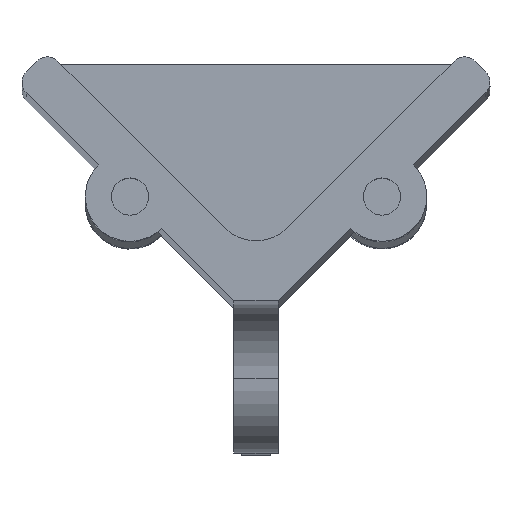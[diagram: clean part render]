
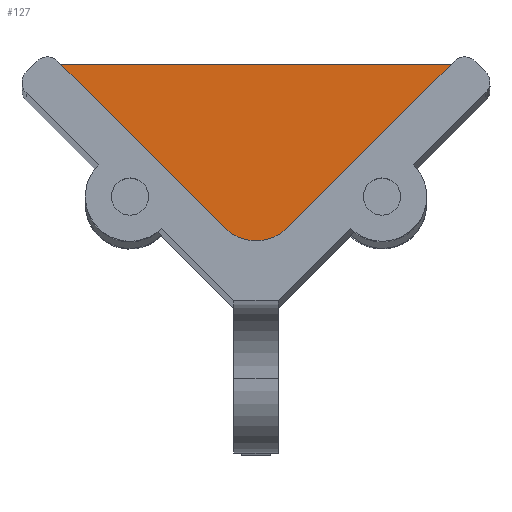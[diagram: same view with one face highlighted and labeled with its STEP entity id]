
A CAD part, top view. The second image highlights one B-rep face of the part: STEP entity #127.
In plain terms, the highlighted planar face has unit normal (0, 0, 1).
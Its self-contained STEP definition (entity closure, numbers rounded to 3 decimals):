
#54 = EDGE_CURVE ( 'NONE', #1818, #2196, #669, .T. ) ;
#83 = DIRECTION ( 'NONE',  ( 0., 0., 1. ) ) ;
#127 = ADVANCED_FACE ( 'NONE', ( #1277 ), #1807, .F. ) ;
#159 = CARTESIAN_POINT ( 'NONE',  ( 2.121, 2.121, 0. ) ) ;
#177 = CIRCLE ( 'NONE', #1803, 1. ) ;
#216 = CARTESIAN_POINT ( 'NONE',  ( -14., 13.586, 0. ) ) ;
#229 = LINE ( 'NONE', #216, #2244 ) ;
#273 = DIRECTION ( 'NONE',  ( -0.707, 0.707, 0. ) ) ;
#294 = CARTESIAN_POINT ( 'NONE',  ( -2.121, 2.121, 0. ) ) ;
#297 = CARTESIAN_POINT ( 'NONE',  ( -14., 13.586, 0. ) ) ;
#303 = VERTEX_POINT ( 'NONE', #699 ) ;
#391 = CARTESIAN_POINT ( 'NONE',  ( -13.293, 13.293, 0. ) ) ;
#446 = DIRECTION ( 'NONE',  ( -1., 0., 0. ) ) ;
#471 = EDGE_CURVE ( 'NONE', #1684, #1716, #229, .T. ) ;
#477 = CIRCLE ( 'NONE', #1279, 1. ) ;
#504 = ORIENTED_EDGE ( 'NONE', *, *, #578, .F. ) ;
#578 = EDGE_CURVE ( 'NONE', #2196, #1970, #1527, .T. ) ;
#614 = CARTESIAN_POINT ( 'NONE',  ( -14.707, 11.879, 0. ) ) ;
#669 = CIRCLE ( 'NONE', #885, 3. ) ;
#686 = DIRECTION ( 'NONE',  ( 0., 0., 1. ) ) ;
#699 = CARTESIAN_POINT ( 'NONE',  ( 13.293, 13.293, 0. ) ) ;
#703 = DIRECTION ( 'NONE',  ( 1., 0., 0. ) ) ;
#748 = DIRECTION ( 'NONE',  ( 0., 0., -1. ) ) ;
#782 = DIRECTION ( 'NONE',  ( 1., 0., 0. ) ) ;
#822 = CARTESIAN_POINT ( 'NONE',  ( 14., 12.586, 0. ) ) ;
#874 = CARTESIAN_POINT ( 'NONE',  ( 0., 4.243, 0. ) ) ;
#885 = AXIS2_PLACEMENT_3D ( 'NONE', #874, #748, #703 ) ;
#988 = VECTOR ( 'NONE', #1149, 1000. ) ;
#1149 = DIRECTION ( 'NONE',  ( -0.707, -0.707, 0. ) ) ;
#1157 = CARTESIAN_POINT ( 'NONE',  ( 14., 13.586, 0. ) ) ;
#1191 = EDGE_CURVE ( 'NONE', #303, #1818, #1993, .T. ) ;
#1244 = ORIENTED_EDGE ( 'NONE', *, *, #1328, .F. ) ;
#1249 = ORIENTED_EDGE ( 'NONE', *, *, #54, .F. ) ;
#1277 = FACE_OUTER_BOUND ( 'NONE', #1344, .T. ) ;
#1279 = AXIS2_PLACEMENT_3D ( 'NONE', #822, #686, #1370 ) ;
#1282 = VECTOR ( 'NONE', #273, 1000. ) ;
#1319 = DIRECTION ( 'NONE',  ( 1., 0., 0. ) ) ;
#1328 = EDGE_CURVE ( 'NONE', #1716, #303, #477, .T. ) ;
#1344 = EDGE_LOOP ( 'NONE', ( #1244, #1363, #1884, #504, #1249, #1437 ) ) ;
#1363 = ORIENTED_EDGE ( 'NONE', *, *, #471, .F. ) ;
#1370 = DIRECTION ( 'NONE',  ( -1., 0., 0. ) ) ;
#1437 = ORIENTED_EDGE ( 'NONE', *, *, #1191, .F. ) ;
#1479 = CARTESIAN_POINT ( 'NONE',  ( 2.121, 2.121, 0. ) ) ;
#1498 = DIRECTION ( 'NONE',  ( 0., 0., -1. ) ) ;
#1527 = LINE ( 'NONE', #1701, #1282 ) ;
#1660 = CARTESIAN_POINT ( 'NONE',  ( -14., 12.586, 0. ) ) ;
#1684 = VERTEX_POINT ( 'NONE', #297 ) ;
#1701 = CARTESIAN_POINT ( 'NONE',  ( -2.121, 2.121, 0. ) ) ;
#1716 = VERTEX_POINT ( 'NONE', #1157 ) ;
#1794 = AXIS2_PLACEMENT_3D ( 'NONE', #614, #1498, #446 ) ;
#1803 = AXIS2_PLACEMENT_3D ( 'NONE', #1660, #83, #1319 ) ;
#1807 = PLANE ( 'NONE',  #1794 ) ;
#1818 = VERTEX_POINT ( 'NONE', #159 ) ;
#1884 = ORIENTED_EDGE ( 'NONE', *, *, #2072, .F. ) ;
#1970 = VERTEX_POINT ( 'NONE', #391 ) ;
#1993 = LINE ( 'NONE', #1479, #988 ) ;
#2072 = EDGE_CURVE ( 'NONE', #1970, #1684, #177, .T. ) ;
#2196 = VERTEX_POINT ( 'NONE', #294 ) ;
#2244 = VECTOR ( 'NONE', #782, 1000. ) ;
